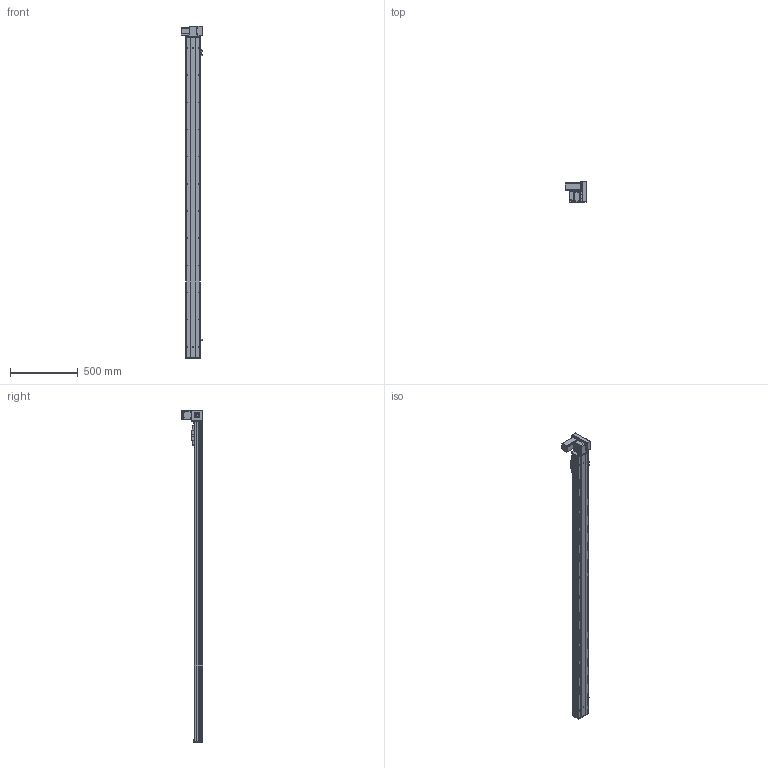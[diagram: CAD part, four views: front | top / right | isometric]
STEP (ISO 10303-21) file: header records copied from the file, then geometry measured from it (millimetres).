
FILE_DESCRIPTION (( 'STEP AP203' ), '1' );
FILE_NAME ('Y10CB-D90-S2100-UR-P400W.STEP', '2020-02-16T04:04:49', ( '微软用户' ), ( '微软中国' ), 'SwSTEP 2.0', 'SolidWorks 2017', '' );
FILE_SCHEMA (( 'CONFIG_CONTROL_DESIGN' ));
Length unit declared in the file: millimetre
Products named in the file (18): Y10B--々湍喘謫眊--666; 0B-埴倛裔啣; Y10B-耜蚾蟀諉啣----; 10CB-詩湍-; 00B-俋欶BM--; Y10CB- 掛极耜裔啣-毀---; 0CB-雄赽釱---; Y10CB-D90-S2100-UR-P400W; Y10C---詩湍揤啣; 0Cb-俋欶---; 10CB9-掛极; Y10B-々湍喘謫眊楊擘啣--; 10CB-耜裔; 0B-萇儂楊擘啣; Y135C-陔俋离換覜結え-; san松下电机400不带刹车----; Y100-135俋离換覜ん--; 0B-源倛裔啣
Assembly tree (21 placements, depth 2):
  Y10CB-D90-S2100-UR-P400W
    0CB-雄赽釱---
    0Cb-俋欶---
    Y10B-々湍喘謫眊楊擘啣--
    0B-萇儂楊擘啣
    san松下电机400不带刹车----
    0B-源倛裔啣
    0B-埴倛裔啣
    10CB-詩湍-
    Y10CB- 掛极耜裔啣-毀---  x2
    Y10C---詩湍揤啣  x2
    10CB9-掛极
    10CB-耜裔
    Y135C-陔俋离換覜結え-
    Y100-135俋离換覜ん--  x3
    Y10B--々湍喘謫眊--666
    Y10B-耜蚾蟀諉啣----
    00B-俋欶BM--
Bounding box: 157 x 155.5 x 2446 mm (x, y, z)
Volume: 5055540.5 mm3; surface area: 2379859.7 mm2
Topology: 21 solids, 21 shells, 1050 faces, 2843 edges, 1850 vertices
Faces by surface type: cylinder 539, plane 487, cone 24
Entity records: 33412 total; most frequent: CARTESIAN_POINT 6209, DIRECTION 5338, ORIENTED_EDGE 5156, EDGE_CURVE 2578, AXIS2_PLACEMENT_3D 1909, VERTEX_POINT 1676, LINE 1520, VECTOR 1520
